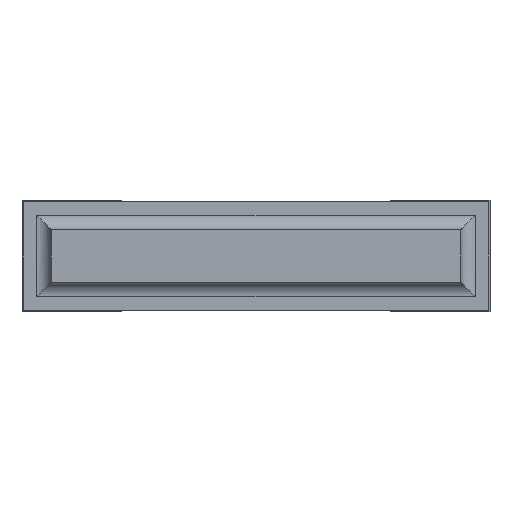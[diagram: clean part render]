
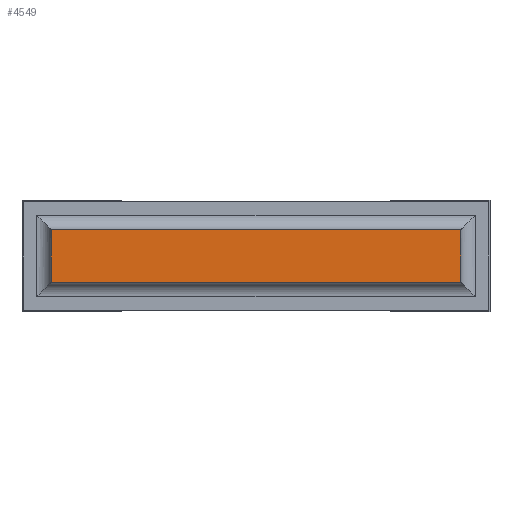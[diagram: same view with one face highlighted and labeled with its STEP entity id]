
A CAD part, front view. The second image highlights one B-rep face of the part: STEP entity #4549.
In plain terms, the highlighted planar face has unit normal (0, -1, 0).
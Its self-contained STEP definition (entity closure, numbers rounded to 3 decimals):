
#347=FACE_OUTER_BOUND('',#632,.T.);
#632=EDGE_LOOP('',(#3711,#3712,#3713,#3714));
#1069=LINE('',#7044,#1641);
#1072=LINE('',#7054,#1644);
#1084=LINE('',#7081,#1656);
#1086=LINE('',#7085,#1658);
#1641=VECTOR('',#5785,10.);
#1644=VECTOR('',#5796,10.);
#1656=VECTOR('',#5820,10.);
#1658=VECTOR('',#5826,10.);
#2117=VERTEX_POINT('',#7041);
#2118=VERTEX_POINT('',#7043);
#2121=VERTEX_POINT('',#7053);
#2130=VERTEX_POINT('',#7080);
#2661=EDGE_CURVE('',#2118,#2117,#1069,.T.);
#2666=EDGE_CURVE('',#2121,#2117,#1072,.T.);
#2680=EDGE_CURVE('',#2118,#2130,#1084,.T.);
#2682=EDGE_CURVE('',#2130,#2121,#1086,.T.);
#3711=ORIENTED_EDGE('',*,*,#2682,.F.);
#3712=ORIENTED_EDGE('',*,*,#2680,.F.);
#3713=ORIENTED_EDGE('',*,*,#2661,.T.);
#3714=ORIENTED_EDGE('',*,*,#2666,.F.);
#4281=PLANE('',#4907);
#4549=ADVANCED_FACE('',(#347),#4281,.T.);
#4907=AXIS2_PLACEMENT_3D('',#7086,#5827,#5828);
#5785=DIRECTION('',(0.,0.,-1.));
#5796=DIRECTION('',(-1.,0.,0.));
#5820=DIRECTION('',(1.,0.,0.));
#5826=DIRECTION('',(0.,0.,-1.));
#5827=DIRECTION('center_axis',(0.,-1.,0.));
#5828=DIRECTION('ref_axis',(0.,0.,-1.));
#7041=CARTESIAN_POINT('',(0.1,0.,0.1));
#7043=CARTESIAN_POINT('',(0.1,0.,0.28));
#7044=CARTESIAN_POINT('',(0.1,0.,0.28));
#7053=CARTESIAN_POINT('',(1.5,0.,0.1));
#7054=CARTESIAN_POINT('',(1.5,0.,0.1));
#7080=CARTESIAN_POINT('',(1.5,0.,0.28));
#7081=CARTESIAN_POINT('',(0.1,0.,0.28));
#7085=CARTESIAN_POINT('',(1.5,0.,0.28));
#7086=CARTESIAN_POINT('Origin',(1.5,0.,0.19));
